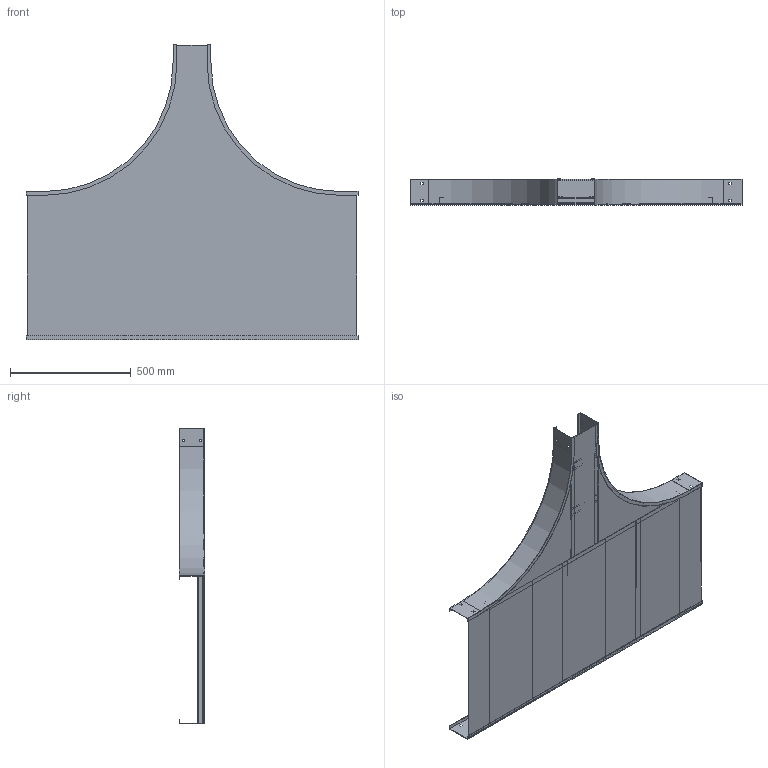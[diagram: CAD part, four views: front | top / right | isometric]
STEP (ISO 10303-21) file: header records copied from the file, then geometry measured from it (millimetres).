
FILE_DESCRIPTION((''),'2;1');
FILE_NAME('AUF42406SRT24_ASM','2010-02-11T',('erouzier'),(''),'PRO/ENGINEER BY PARAMETRIC TECHNOLOGY CORPORATION, 2008510','PRO/ENGINEER BY PARAMETRIC TECHNOLOGY CORPORATION, 2008510','');
FILE_SCHEMA(('CONFIG_CONTROL_DESIGN'));
Length unit declared in the file: inch
Products named in the file (15): CDS001319-4-90-21-I; CDS013841-4-54; CDS000495_GEN_AF9; CDS002159L24_AF7; CDS002159L24_AF8; CDS002159L24_AF9; CDS002159L24_AF10; CDS002159L24_AF11; CDS002159L24_AF12; CDS000495_GEN_AF10; CDS000495_GEN_AF11; CDS002159L6_AF2; CDS002159L6_AF3; CDS005002-24-24-6; AUF42406SRT24_ASM
Assembly tree (15 placements, depth 2):
  AUF42406SRT24_ASM
    CDS001319-4-90-21-I  x2
    CDS013841-4-54
    CDS000495_GEN_AF9
    CDS002159L24_AF7
    CDS002159L24_AF8
    CDS002159L24_AF9
    CDS002159L24_AF10
    CDS002159L24_AF11
    CDS002159L24_AF12
    CDS000495_GEN_AF10
    CDS000495_GEN_AF11
    CDS002159L6_AF2
    CDS002159L6_AF3
    CDS005002-24-24-6
Bounding box: 1376.17 x 106.05 x 1223.77 mm (x, y, z)
Volume: 2975062.2 mm3; surface area: 4221398.3 mm2
Topology: 15 solids, 15 shells, 376 faces, 1038 edges, 692 vertices
Faces by surface type: plane 278, cylinder 98
Entity records: 11238 total; most frequent: CARTESIAN_POINT 1942, ORIENTED_EDGE 1884, DIRECTION 1874, EDGE_CURVE 942, VECTOR 754, LINE 754, VERTEX_POINT 628, AXIS2_PLACEMENT_3D 560
